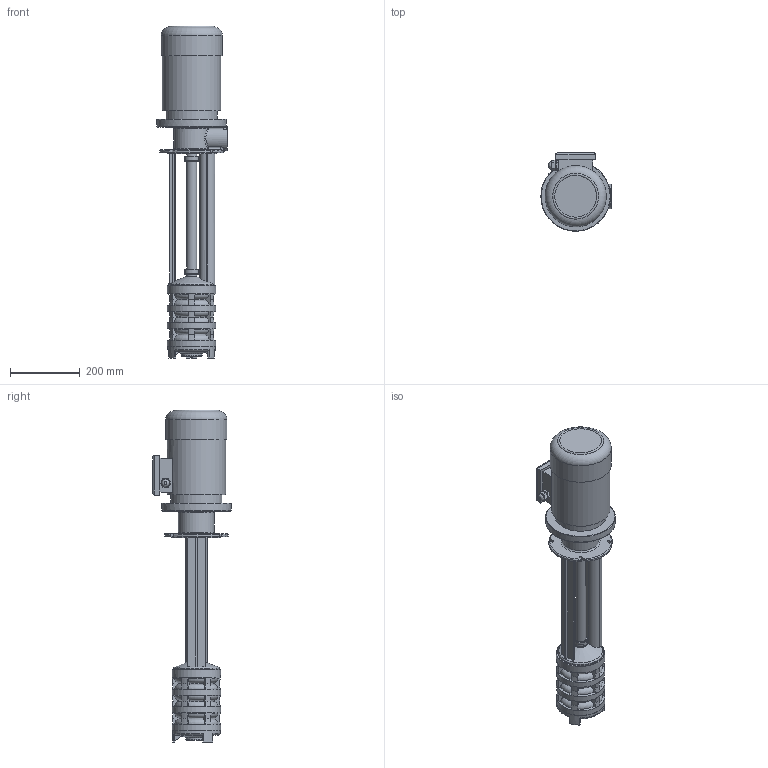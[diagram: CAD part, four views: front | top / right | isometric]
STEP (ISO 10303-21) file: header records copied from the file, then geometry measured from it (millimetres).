
FILE_DESCRIPTION(/* description */ ('Unknown'),/* implementation_level */ '2;1');
FILE_NAME(/* name */ 'gp4-590',/* time_stamp */ '2025-06-12T11:03:50+03:00',/* author */ ('Unknown'),/* organization */ ('Unknown'),/* preprocessor_version */ 'ST-DEVELOPER v16.7',/* originating_system */ 'DEX',/* authorisation */ $);
FILE_SCHEMA (('AUTOMOTIVE_DESIGN {1 0 10303 214 3 1 1}'));
Length unit declared in the file: millimetre
Products named in the file (1): gp4-590
Bounding box: 202 x 225 x 953.34 mm (x, y, z)
Volume: 12096634.5 mm3; surface area: 617633.1 mm2
Topology: 1 solids, 1 shells, 430 faces, 1128 edges, 731 vertices
Faces by surface type: plane 146, cylinder 86, bspline 84, cone 61, torus 53
Full cylindrical faces by diameter (mm): 17 x1, 21.5 x1, 29 x3, 33 x2, 35 x2, 39 x2, 40.5 x2, 45 x1, 47 x1, 60 x1, 137 x1, 139 x4, 140 x1, 168.001 x1, 176 x1, 200 x1
Entity records: 15841 total; most frequent: CARTESIAN_POINT 5836, ORIENTED_EDGE 2120, DIRECTION 1931, EDGE_CURVE 1060, AXIS2_PLACEMENT_3D 731, VERTEX_POINT 718, EDGE_LOOP 520, FACE_BOUND 520
